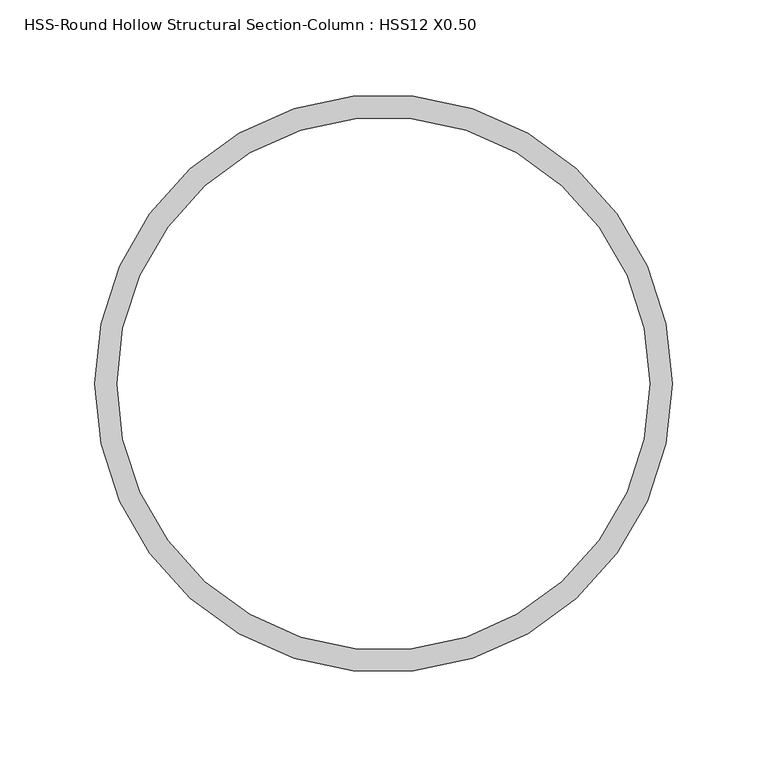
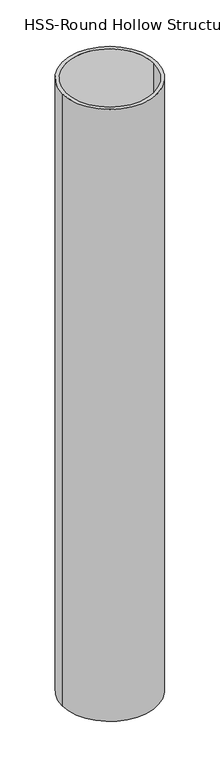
"""IFC4 building model written with IfcOpenShell, lengths in millimetres: column geometry, HSS-Round Hollow Structural Section-Column : HSS12 X0.50."""

from ifc_helpers import new_model, si_unit, point, frame, origin, origin_2d, place, context, project, spatial, circle_curve, trimmed, segment, composite_curve, outline, extrude, source, transform, mapped, element, save


def hss_round_hollow_structural_section_column_hss12_x0_50_3cafa296(model_context):
    return source(origin(), model_context, "Body", "SweptSolid", [
        extrude(outline(composite_curve([segment(trimmed(circle_curve(origin_2d(), 152.4), [point((-152.4, 0.0))], [point((152.4, 0.0))], False, "CARTESIAN"), True, "CONTINUOUS"), segment(trimmed(circle_curve(origin_2d(), 152.4), [point((152.4, 0.0))], [point((-152.4, 0.0))], False, "CARTESIAN"), True, "CONTINUOUS")], self_intersect=False), holes=[composite_curve([segment(trimmed(circle_curve(origin_2d(), 140.589), [point((-140.589, 0.0))], [point((140.589, 0.0))], True, "CARTESIAN"), True, "CONTINUOUS"), segment(trimmed(circle_curve(origin_2d(), 140.589), [point((140.589, 0.0))], [point((-140.589, 0.0))], True, "CARTESIAN"), True, "CONTINUOUS")], self_intersect=False)]), frame((0.0, 0.0, 290995.1), z_axis=(0.0, 0.0, 1.0), x_axis=(1.0, 0.0, 0.0)), (0.0, 0.0, 1.0), 2070.1),
    ])


if __name__ == "__main__":
    model = new_model("IFC4")
    model_context = context("Model", 3, world=origin())
    ifc_project = project(units=[si_unit("LENGTHUNIT", "METRE", prefix="MILLI")], contexts=[model_context])
    site = spatial("IfcSite", under=ifc_project)
    building = spatial("IfcBuilding", under=site)
    placement = place(None, origin())
    hss_round_hollow_structural_section_column_hss12_x0_50_shape = hss_round_hollow_structural_section_column_hss12_x0_50_3cafa296(model_context)
    element("IfcColumn", 1, ObjectType="HSS-Round Hollow Structural Section-Column : HSS12 X0.50", at=placement, inside=building, context=model_context, shape_type="MappedRepresentation", body=[
        mapped(hss_round_hollow_structural_section_column_hss12_x0_50_shape, transform((0.0, 0.0, 0.0), x_axis=(1.0, 0.0, 0.0), y_axis=(0.0, 1.0, 0.0), z_axis=(0.0, 0.0, 1.0))),
    ])
    save(model, "model.ifc")
